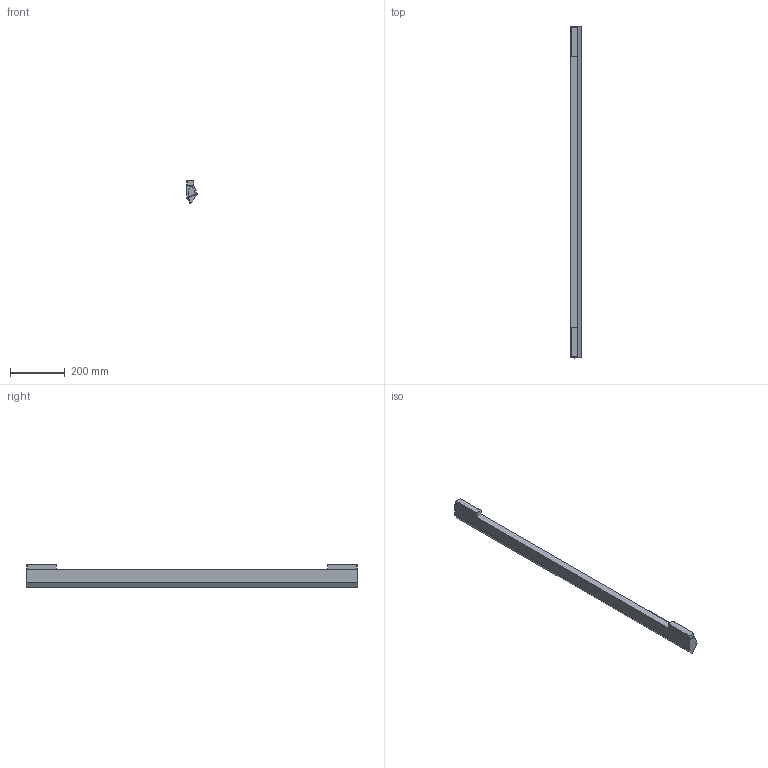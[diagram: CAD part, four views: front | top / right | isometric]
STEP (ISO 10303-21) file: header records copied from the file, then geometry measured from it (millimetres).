
FILE_DESCRIPTION(/* description */ (''),/* implementation_level */ '2;1');
FILE_NAME(/* name */ 'A.24 - Wall Washer - 1200',/* time_stamp */ '2026-06-15T12:39:33+02:00',/* author */ (''),/* organization */ (''),/* preprocessor_version */ 'ST-DEVELOPER v16.5',/* originating_system */ 'Rhino 7.38',/* authorisation */ '');
FILE_SCHEMA (('CONFIG_CONTROL_DESIGN'));
Length unit declared in the file: millimetre
Products named in the file (1): Document
Bounding box: 39.92 x 1217 x 83.74 mm (x, y, z)
Volume: 1017719.2 mm3; surface area: 495101.3 mm2
Topology: 5 solids, 7 shells, 124 faces, 285 edges, 175 vertices
Faces by surface type: plane 54, cylinder 47, bspline 23
Entity records: 3711 total; most frequent: CARTESIAN_POINT 1789, ORIENTED_EDGE 566, EDGE_CURVE 284, VERTEX_POINT 174, EDGE_LOOP 126, ADVANCED_FACE 124, FACE_OUTER_BOUND 124, DIRECTION 109
